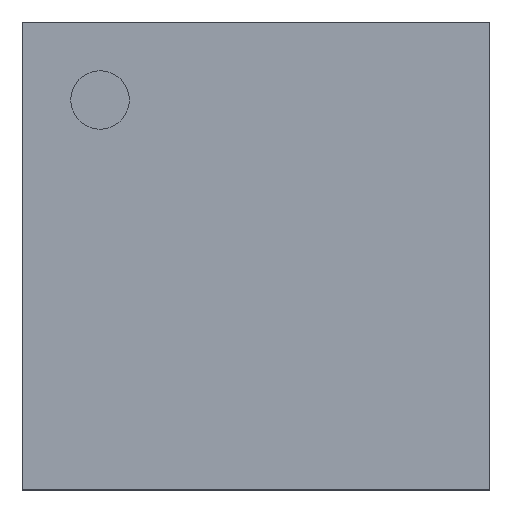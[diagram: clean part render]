
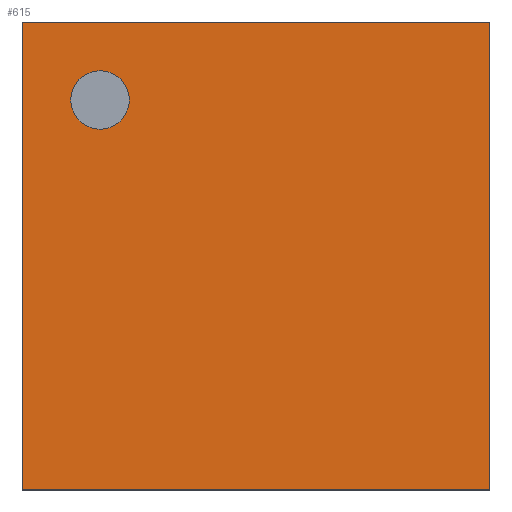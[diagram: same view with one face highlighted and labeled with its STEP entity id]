
A CAD part, top view. The second image highlights one B-rep face of the part: STEP entity #615.
In plain terms, the highlighted planar face has unit normal (0, 0, 1).
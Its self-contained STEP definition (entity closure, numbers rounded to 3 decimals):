
#426 = VERTEX_POINT('',#427);
#427 = CARTESIAN_POINT('',(0.,0.,0.58));
#434 = PLANE('',#435);
#435 = AXIS2_PLACEMENT_3D('',#436,#437,#438);
#436 = CARTESIAN_POINT('',(0.,0.,0.14));
#437 = DIRECTION('',(1.,0.,-0.));
#438 = DIRECTION('',(0.,0.,1.));
#446 = PLANE('',#447);
#447 = AXIS2_PLACEMENT_3D('',#448,#449,#450);
#448 = CARTESIAN_POINT('',(0.,0.,0.14));
#449 = DIRECTION('',(-0.,1.,0.));
#450 = DIRECTION('',(0.,0.,1.));
#487 = VERTEX_POINT('',#488);
#488 = CARTESIAN_POINT('',(0.,4.,0.58));
#502 = PLANE('',#503);
#503 = AXIS2_PLACEMENT_3D('',#504,#505,#506);
#504 = CARTESIAN_POINT('',(0.,4.,0.14));
#505 = DIRECTION('',(-0.,1.,0.));
#506 = DIRECTION('',(0.,0.,1.));
#514 = EDGE_CURVE('',#426,#487,#515,.T.);
#515 = SURFACE_CURVE('',#516,(#520,#527),.PCURVE_S1.);
#516 = LINE('',#517,#518);
#517 = CARTESIAN_POINT('',(0.,0.,0.58));
#518 = VECTOR('',#519,1.);
#519 = DIRECTION('',(-0.,1.,0.));
#520 = PCURVE('',#434,#521);
#521 = DEFINITIONAL_REPRESENTATION('',(#522),#526);
#522 = LINE('',#523,#524);
#523 = CARTESIAN_POINT('',(0.44,0.));
#524 = VECTOR('',#525,1.);
#525 = DIRECTION('',(0.,-1.));
#526 = ( GEOMETRIC_REPRESENTATION_CONTEXT(2) 
PARAMETRIC_REPRESENTATION_CONTEXT() REPRESENTATION_CONTEXT('2D SPACE',''
  ) );
#527 = PCURVE('',#528,#533);
#528 = PLANE('',#529);
#529 = AXIS2_PLACEMENT_3D('',#530,#531,#532);
#530 = CARTESIAN_POINT('',(0.,0.,0.58));
#531 = DIRECTION('',(0.,0.,1.));
#532 = DIRECTION('',(1.,0.,-0.));
#533 = DEFINITIONAL_REPRESENTATION('',(#534),#538);
#534 = LINE('',#535,#536);
#535 = CARTESIAN_POINT('',(0.,0.));
#536 = VECTOR('',#537,1.);
#537 = DIRECTION('',(0.,1.));
#538 = ( GEOMETRIC_REPRESENTATION_CONTEXT(2) 
PARAMETRIC_REPRESENTATION_CONTEXT() REPRESENTATION_CONTEXT('2D SPACE',''
  ) );
#567 = EDGE_CURVE('',#426,#568,#570,.T.);
#568 = VERTEX_POINT('',#569);
#569 = CARTESIAN_POINT('',(4.,0.,0.58));
#570 = SURFACE_CURVE('',#571,(#575,#582),.PCURVE_S1.);
#571 = LINE('',#572,#573);
#572 = CARTESIAN_POINT('',(0.,0.,0.58));
#573 = VECTOR('',#574,1.);
#574 = DIRECTION('',(1.,0.,-0.));
#575 = PCURVE('',#446,#576);
#576 = DEFINITIONAL_REPRESENTATION('',(#577),#581);
#577 = LINE('',#578,#579);
#578 = CARTESIAN_POINT('',(0.44,0.));
#579 = VECTOR('',#580,1.);
#580 = DIRECTION('',(0.,1.));
#581 = ( GEOMETRIC_REPRESENTATION_CONTEXT(2) 
PARAMETRIC_REPRESENTATION_CONTEXT() REPRESENTATION_CONTEXT('2D SPACE',''
  ) );
#582 = PCURVE('',#528,#583);
#583 = DEFINITIONAL_REPRESENTATION('',(#584),#588);
#584 = LINE('',#585,#586);
#585 = CARTESIAN_POINT('',(0.,0.));
#586 = VECTOR('',#587,1.);
#587 = DIRECTION('',(1.,0.));
#588 = ( GEOMETRIC_REPRESENTATION_CONTEXT(2) 
PARAMETRIC_REPRESENTATION_CONTEXT() REPRESENTATION_CONTEXT('2D SPACE',''
  ) );
#604 = PLANE('',#605);
#605 = AXIS2_PLACEMENT_3D('',#606,#607,#608);
#606 = CARTESIAN_POINT('',(4.,0.,0.14));
#607 = DIRECTION('',(1.,0.,-0.));
#608 = DIRECTION('',(0.,0.,1.));
#615 = ADVANCED_FACE('',(#616,#664),#528,.T.);
#616 = FACE_BOUND('',#617,.T.);
#617 = EDGE_LOOP('',(#618,#619,#620,#643));
#618 = ORIENTED_EDGE('',*,*,#514,.F.);
#619 = ORIENTED_EDGE('',*,*,#567,.T.);
#620 = ORIENTED_EDGE('',*,*,#621,.T.);
#621 = EDGE_CURVE('',#568,#622,#624,.T.);
#622 = VERTEX_POINT('',#623);
#623 = CARTESIAN_POINT('',(4.,4.,0.58));
#624 = SURFACE_CURVE('',#625,(#629,#636),.PCURVE_S1.);
#625 = LINE('',#626,#627);
#626 = CARTESIAN_POINT('',(4.,0.,0.58));
#627 = VECTOR('',#628,1.);
#628 = DIRECTION('',(-0.,1.,0.));
#629 = PCURVE('',#528,#630);
#630 = DEFINITIONAL_REPRESENTATION('',(#631),#635);
#631 = LINE('',#632,#633);
#632 = CARTESIAN_POINT('',(4.,0.));
#633 = VECTOR('',#634,1.);
#634 = DIRECTION('',(0.,1.));
#635 = ( GEOMETRIC_REPRESENTATION_CONTEXT(2) 
PARAMETRIC_REPRESENTATION_CONTEXT() REPRESENTATION_CONTEXT('2D SPACE',''
  ) );
#636 = PCURVE('',#604,#637);
#637 = DEFINITIONAL_REPRESENTATION('',(#638),#642);
#638 = LINE('',#639,#640);
#639 = CARTESIAN_POINT('',(0.44,0.));
#640 = VECTOR('',#641,1.);
#641 = DIRECTION('',(0.,-1.));
#642 = ( GEOMETRIC_REPRESENTATION_CONTEXT(2) 
PARAMETRIC_REPRESENTATION_CONTEXT() REPRESENTATION_CONTEXT('2D SPACE',''
  ) );
#643 = ORIENTED_EDGE('',*,*,#644,.F.);
#644 = EDGE_CURVE('',#487,#622,#645,.T.);
#645 = SURFACE_CURVE('',#646,(#650,#657),.PCURVE_S1.);
#646 = LINE('',#647,#648);
#647 = CARTESIAN_POINT('',(0.,4.,0.58));
#648 = VECTOR('',#649,1.);
#649 = DIRECTION('',(1.,0.,-0.));
#650 = PCURVE('',#528,#651);
#651 = DEFINITIONAL_REPRESENTATION('',(#652),#656);
#652 = LINE('',#653,#654);
#653 = CARTESIAN_POINT('',(0.,4.));
#654 = VECTOR('',#655,1.);
#655 = DIRECTION('',(1.,0.));
#656 = ( GEOMETRIC_REPRESENTATION_CONTEXT(2) 
PARAMETRIC_REPRESENTATION_CONTEXT() REPRESENTATION_CONTEXT('2D SPACE',''
  ) );
#657 = PCURVE('',#502,#658);
#658 = DEFINITIONAL_REPRESENTATION('',(#659),#663);
#659 = LINE('',#660,#661);
#660 = CARTESIAN_POINT('',(0.44,0.));
#661 = VECTOR('',#662,1.);
#662 = DIRECTION('',(0.,1.));
#663 = ( GEOMETRIC_REPRESENTATION_CONTEXT(2) 
PARAMETRIC_REPRESENTATION_CONTEXT() REPRESENTATION_CONTEXT('2D SPACE',''
  ) );
#664 = FACE_BOUND('',#665,.T.);
#665 = EDGE_LOOP('',(#666));
#666 = ORIENTED_EDGE('',*,*,#667,.F.);
#667 = EDGE_CURVE('',#668,#668,#670,.T.);
#668 = VERTEX_POINT('',#669);
#669 = CARTESIAN_POINT('',(0.917,3.333,0.58));
#670 = SURFACE_CURVE('',#671,(#676,#683),.PCURVE_S1.);
#671 = CIRCLE('',#672,0.25);
#672 = AXIS2_PLACEMENT_3D('',#673,#674,#675);
#673 = CARTESIAN_POINT('',(0.667,3.333,0.58));
#674 = DIRECTION('',(0.,0.,1.));
#675 = DIRECTION('',(1.,0.,-0.));
#676 = PCURVE('',#528,#677);
#677 = DEFINITIONAL_REPRESENTATION('',(#678),#682);
#678 = CIRCLE('',#679,0.25);
#679 = AXIS2_PLACEMENT_2D('',#680,#681);
#680 = CARTESIAN_POINT('',(0.667,3.333));
#681 = DIRECTION('',(1.,0.));
#682 = ( GEOMETRIC_REPRESENTATION_CONTEXT(2) 
PARAMETRIC_REPRESENTATION_CONTEXT() REPRESENTATION_CONTEXT('2D SPACE',''
  ) );
#683 = PCURVE('',#684,#689);
#684 = CYLINDRICAL_SURFACE('',#685,0.25);
#685 = AXIS2_PLACEMENT_3D('',#686,#687,#688);
#686 = CARTESIAN_POINT('',(0.667,3.333,0.48));
#687 = DIRECTION('',(0.,0.,1.));
#688 = DIRECTION('',(1.,0.,-0.));
#689 = DEFINITIONAL_REPRESENTATION('',(#690),#694);
#690 = LINE('',#691,#692);
#691 = CARTESIAN_POINT('',(0.,0.1));
#692 = VECTOR('',#693,1.);
#693 = DIRECTION('',(1.,0.));
#694 = ( GEOMETRIC_REPRESENTATION_CONTEXT(2) 
PARAMETRIC_REPRESENTATION_CONTEXT() REPRESENTATION_CONTEXT('2D SPACE',''
  ) );
